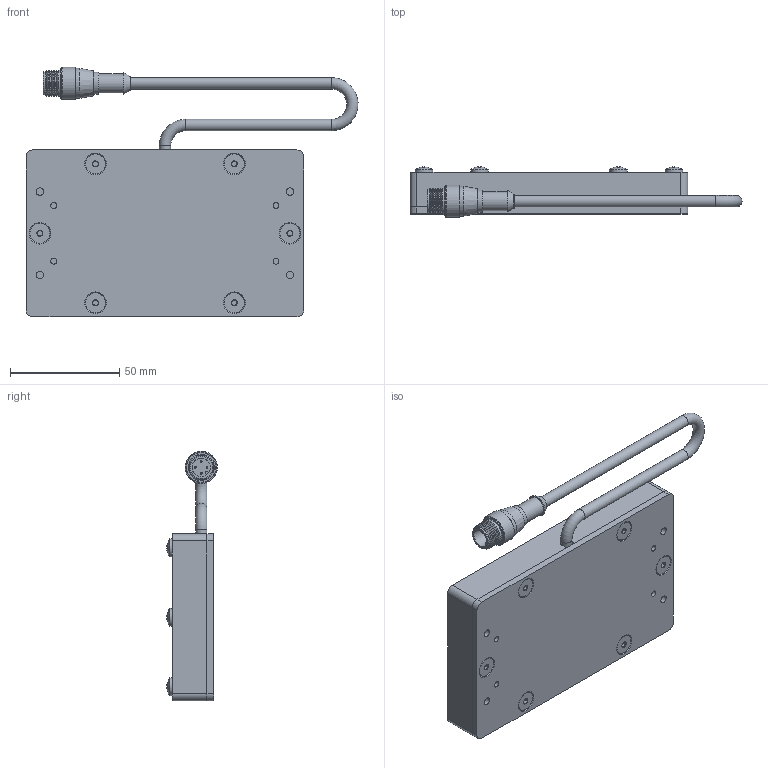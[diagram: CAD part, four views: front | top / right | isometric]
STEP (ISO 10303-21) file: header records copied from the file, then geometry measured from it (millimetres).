
FILE_DESCRIPTION (( 'STEP AP214' ), '1' );
FILE_NAME ('SBL24-XXX.STEP', '2026-04-17T16:33:11', ( '' ), ( '' ), 'SwSTEP 2.0', 'SolidWorks 2025', '' );
FILE_SCHEMA (( 'AUTOMOTIVE_DESIGN' ));
Length unit declared in the file: inch
Products named in the file (10): Hex Standoff X.X x 8-32_0.375; MC Pigtail 24; WD-SBLYYXX_2x4 with holes; 8-32 x .375 Nylon Screw_.375" 94611A192; M12 Connector 4,5 and 8 pin; 8-32 x 0.375 FHCS (92210A192)_92210A192; SC Pigtail Complete 18_4pin; SBL24-XXX; Housing SBL24; BackPlate BLYYXX_0204
Assembly tree (24 placements, depth 3):
  SBL24-XXX
    Housing SBL24
    BackPlate BLYYXX_0204
    SC Pigtail Complete 18_4pin
      MC Pigtail 24
      M12 Connector 4,5 and 8 pin
    WD-SBLYYXX_2x4 with holes
    Hex Standoff X.X x 8-32_0.375  x6
    8-32 x 0.375 FHCS (92210A192)_92210A192  x6
    8-32 x .375 Nylon Screw_.375" 94611A192  x6
Bounding box: 151.79 x 23.12 x 113.99 mm (x, y, z)
Volume: 121222.4 mm3; surface area: 73578.5 mm2
Topology: 23 solids, 23 shells, 678 faces, 1664 edges, 1058 vertices
Faces by surface type: plane 249, bspline 162, cylinder 123, cone 115, torus 19, sphere 10
Full cylindrical faces by diameter (mm): 0.762 x4, 2.705 x4, 3.454 x10, 4.496 x18, 5.207 x3, 6.604 x4, 6.858 x6, 8.128 x6, 8.382 x1, 8.636 x1, 9.119 x6, 10.16 x1, 10.541 x1, 11.938 x1, 13.716 x2, 14.732 x1
Entity records: 12368 total; most frequent: CARTESIAN_POINT 5048, DIRECTION 1212, ORIENTED_EDGE 1042, EDGE_CURVE 521, AXIS2_PLACEMENT_3D 508, EDGE_LOOP 450, VERTEX_POINT 389, FACE_OUTER_BOUND 334
